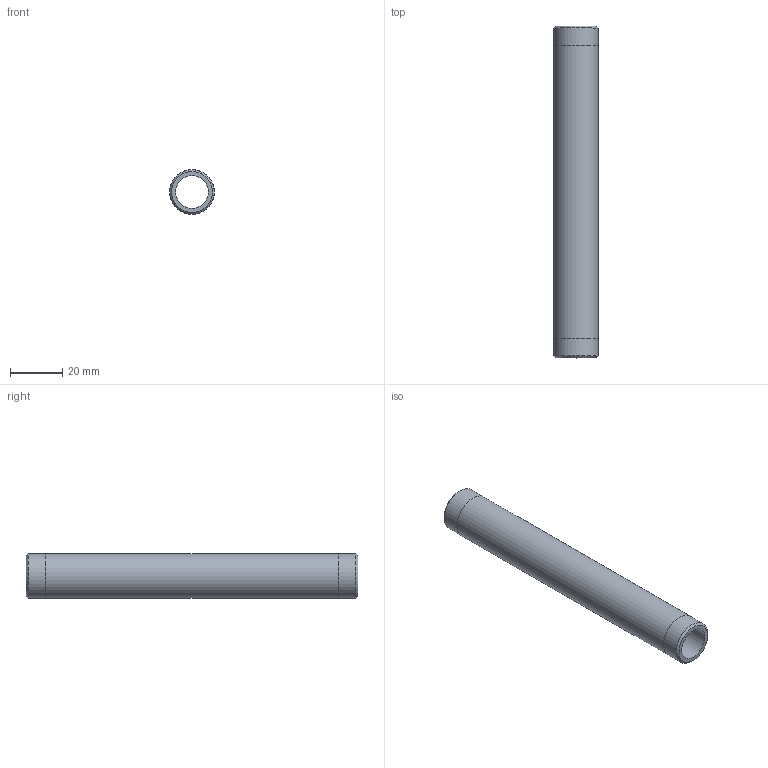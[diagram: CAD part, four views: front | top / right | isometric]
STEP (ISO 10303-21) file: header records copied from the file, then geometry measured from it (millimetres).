
FILE_DESCRIPTION(/* description */ (''),/* implementation_level */ '2;1');
FILE_NAME(/* name */ 'C:/Users/drich/Desktop/SSPN38-5 v1.step',/* time_stamp */ '2020-01-04T13:57:37-06:00',/* author */ (''),/* organization */ (''),/* preprocessor_version */ 'ST-DEVELOPER v18',/* originating_system */ 'Autodesk Translation Framework v8.12.0.6',/* authorisation */ '');
FILE_SCHEMA (('AUTOMOTIVE_DESIGN { 1 0 10303 214 3 1 1 }'));
Length unit declared in the file: inch
Products named in the file (1): SSPN38-5
Bounding box: 17.14 x 127 x 17.14 mm (x, y, z)
Volume: 13628.6 mm3; surface area: 12000.2 mm2
Topology: 1 solids, 1 shells, 10 faces, 24 edges, 18 vertices
Faces by surface type: cylinder 4, plane 4, cone 2
Full cylindrical faces by diameter (mm): 12.522 x1, 17.094 x2, 17.145 x1
Entity records: 353 total; most frequent: DIRECTION 64, CARTESIAN_POINT 53, ORIENTED_EDGE 48, AXIS2_PLACEMENT_3D 29, EDGE_CURVE 24, CIRCLE 18, VERTEX_POINT 18, EDGE_LOOP 14
